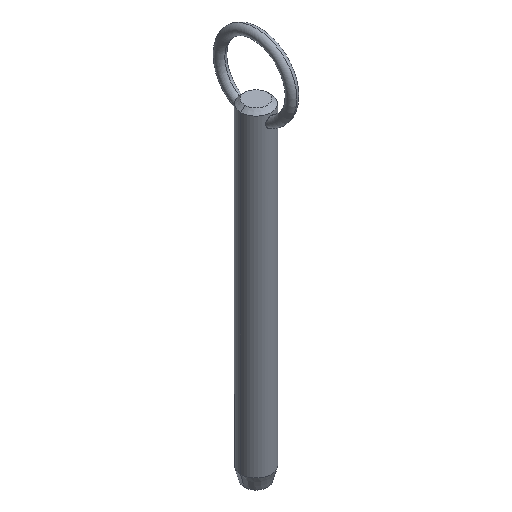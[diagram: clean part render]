
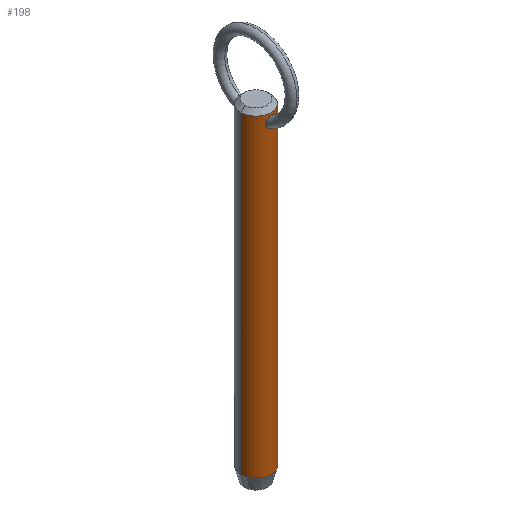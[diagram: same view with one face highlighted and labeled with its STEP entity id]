
A CAD part, isometric view. The second image highlights one B-rep face of the part: STEP entity #198.
In plain terms, the highlighted cylindrical face has radius 4.76 mm (diameter 9.52 mm), a partial arc.
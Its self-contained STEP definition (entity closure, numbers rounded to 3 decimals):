
#3 = AXIS2_PLACEMENT_3D ( 'NONE', #461, #98, #16 ) ;
#10 = CARTESIAN_POINT ( 'NONE',  ( 1.434, -4.539, 86.754 ) ) ;
#12 = CARTESIAN_POINT ( 'NONE',  ( 1.473, -4.526, 85.931 ) ) ;
#16 = DIRECTION ( 'NONE',  ( 1., 0., 0. ) ) ;
#22 = CARTESIAN_POINT ( 'NONE',  ( -0.208, -4.757, 88.034 ) ) ;
#26 = CARTESIAN_POINT ( 'NONE',  ( -0.504, -4.734, 87.938 ) ) ;
#31 = CARTESIAN_POINT ( 'NONE',  ( 0., -4.76, 88.048 ) ) ;
#36 = CYLINDRICAL_SURFACE ( 'NONE', #148, 4.76 ) ;
#41 = CARTESIAN_POINT ( 'NONE',  ( 0.77, -4.698, 87.775 ) ) ;
#50 = CARTESIAN_POINT ( 'NONE',  ( 1.478, -4.525, 86.552 ) ) ;
#55 = CARTESIAN_POINT ( 'NONE',  ( 1.344, -4.567, 85.539 ) ) ;
#62 = CARTESIAN_POINT ( 'NONE',  ( 0., 0., -8.7 ) ) ;
#64 = ORIENTED_EDGE ( 'NONE', *, *, #108, .T. ) ;
#73 = CARTESIAN_POINT ( 'NONE',  ( -0.777, -4.7, 87.785 ) ) ;
#75 = DIRECTION ( 'NONE',  ( -1., 0., 0. ) ) ;
#86 = VERTEX_POINT ( 'NONE', #195 ) ;
#88 = CARTESIAN_POINT ( 'NONE',  ( 0., -4.76, 88.048 ) ) ;
#95 = CARTESIAN_POINT ( 'NONE',  ( 1.499, -4.518, 86.137 ) ) ;
#97 = CARTESIAN_POINT ( 'NONE',  ( 0.797, -4.697, 84.929 ) ) ;
#98 = DIRECTION ( 'NONE',  ( 0., 0., -1. ) ) ;
#103 = DIRECTION ( 'NONE',  ( 0., 0., 1. ) ) ;
#105 = VECTOR ( 'NONE', #403, 1000. ) ;
#107 = CARTESIAN_POINT ( 'NONE',  ( -1.247, -4.596, 85.352 ) ) ;
#108 = EDGE_CURVE ( 'NONE', #222, #210, #140, .T. ) ;
#114 = CARTESIAN_POINT ( 'NONE',  ( 0., 0., 83.8 ) ) ;
#116 = FACE_BOUND ( 'NONE', #291, .T. ) ;
#119 = CARTESIAN_POINT ( 'NONE',  ( -4.76, 0., 83.8 ) ) ;
#121 = CARTESIAN_POINT ( 'NONE',  ( 0.687, -4.711, 87.835 ) ) ;
#123 = CARTESIAN_POINT ( 'NONE',  ( 4.76, 0., -8.7 ) ) ;
#128 = VERTEX_POINT ( 'NONE', #123 ) ;
#130 = DIRECTION ( 'NONE',  ( 0., 0., -1. ) ) ;
#132 = CARTESIAN_POINT ( 'NONE',  ( 0.97, -4.662, 85.05 ) ) ;
#140 = B_SPLINE_CURVE_WITH_KNOTS ( 'NONE', 3,
 ( #88, #488, #282, #319, #239, #121, #41, #410, #161, #450, #252, #327, #10, #50, #455, #416, #95, #12, #373, #295, #55, #332, #369, #132, #97, #206, #172, #419, #289, #193 ),
 .UNSPECIFIED., .F., .F.,
 ( 4, 2, 2, 2, 2, 2, 2, 2, 2, 2, 2, 2, 2, 2, 4 ),
 ( 0.004, 0.005, 0.005, 0.005, 0.006, 0.006, 0.007, 0.007, 0.007, 0.007, 0.008, 0.008, 0.009, 0.009, 0.009 ),
 .UNSPECIFIED. ) ;
#143 = CARTESIAN_POINT ( 'NONE',  ( -1.19, -4.611, 87.324 ) ) ;
#145 = CARTESIAN_POINT ( 'NONE',  ( 0., -4.76, 84.726 ) ) ;
#147 = CARTESIAN_POINT ( 'NONE',  ( 0., -4.76, 84.726 ) ) ;
#148 = AXIS2_PLACEMENT_3D ( 'NONE', #114, #188, #75 ) ;
#154 = CARTESIAN_POINT ( 'NONE',  ( -0.103, -4.76, 88.048 ) ) ;
#158 = EDGE_CURVE ( 'NONE', #210, #222, #339, .T. ) ;
#161 = CARTESIAN_POINT ( 'NONE',  ( 0.997, -4.655, 87.564 ) ) ;
#172 = CARTESIAN_POINT ( 'NONE',  ( 0.411, -4.743, 84.777 ) ) ;
#175 = FACE_OUTER_BOUND ( 'NONE', #312, .T. ) ;
#183 = CARTESIAN_POINT ( 'NONE',  ( -1.441, -4.537, 86.757 ) ) ;
#187 = ORIENTED_EDGE ( 'NONE', *, *, #368, .F. ) ;
#188 = DIRECTION ( 'NONE',  ( 0., 0., -1. ) ) ;
#193 = CARTESIAN_POINT ( 'NONE',  ( 0., -4.76, 84.726 ) ) ;
#195 = CARTESIAN_POINT ( 'NONE',  ( -4.76, 0., -8.7 ) ) ;
#198 = ADVANCED_FACE ( 'NONE', ( #175, #116 ), #36, .T. ) ;
#206 = CARTESIAN_POINT ( 'NONE',  ( 0.512, -4.733, 84.808 ) ) ;
#208 = VECTOR ( 'NONE', #130, 1000. ) ;
#210 = VERTEX_POINT ( 'NONE', #145 ) ;
#222 = VERTEX_POINT ( 'NONE', #264 ) ;
#226 = CARTESIAN_POINT ( 'NONE',  ( -0.703, -4.709, 84.889 ) ) ;
#229 = CARTESIAN_POINT ( 'NONE',  ( -1.353, -4.564, 85.535 ) ) ;
#233 = VERTEX_POINT ( 'NONE', #477 ) ;
#238 = ORIENTED_EDGE ( 'NONE', *, *, #442, .T. ) ;
#239 = CARTESIAN_POINT ( 'NONE',  ( 0.506, -4.734, 87.937 ) ) ;
#244 = ORIENTED_EDGE ( 'NONE', *, *, #158, .T. ) ;
#252 = CARTESIAN_POINT ( 'NONE',  ( 1.293, -4.582, 87.142 ) ) ;
#259 = DIRECTION ( 'NONE',  ( -1., 0., 0. ) ) ;
#264 = CARTESIAN_POINT ( 'NONE',  ( 0., -4.76, 88.048 ) ) ;
#266 = EDGE_CURVE ( 'NONE', #233, #86, #447, .T. ) ;
#271 = VERTEX_POINT ( 'NONE', #355 ) ;
#273 = CARTESIAN_POINT ( 'NONE',  ( -0.793, -4.694, 84.939 ) ) ;
#282 = CARTESIAN_POINT ( 'NONE',  ( 0.209, -4.756, 88.034 ) ) ;
#288 = CARTESIAN_POINT ( 'NONE',  ( 4.76, 0., 83.8 ) ) ;
#289 = CARTESIAN_POINT ( 'NONE',  ( 0.105, -4.76, 84.726 ) ) ;
#291 = EDGE_LOOP ( 'NONE', ( #64, #244 ) ) ;
#295 = CARTESIAN_POINT ( 'NONE',  ( 1.385, -4.554, 85.632 ) ) ;
#305 = CARTESIAN_POINT ( 'NONE',  ( -1.039, -4.646, 85.126 ) ) ;
#307 = CARTESIAN_POINT ( 'NONE',  ( -0.961, -4.663, 85.057 ) ) ;
#309 = CARTESIAN_POINT ( 'NONE',  ( -0.21, -4.76, 84.726 ) ) ;
#311 = CIRCLE ( 'NONE', #503, 4.76 ) ;
#312 = EDGE_LOOP ( 'NONE', ( #187, #238, #367, #376 ) ) ;
#319 = CARTESIAN_POINT ( 'NONE',  ( 0.409, -4.743, 87.978 ) ) ;
#327 = CARTESIAN_POINT ( 'NONE',  ( 1.404, -4.548, 86.853 ) ) ;
#332 = CARTESIAN_POINT ( 'NONE',  ( 1.24, -4.596, 85.36 ) ) ;
#339 = B_SPLINE_CURVE_WITH_KNOTS ( 'NONE', 3,
 ( #147, #309, #432, #226, #273, #307, #305, #107, #229, #396, #347, #475, #183, #515, #143, #440, #73, #26, #433, #22, #154, #31 ),
 .UNSPECIFIED., .F., .F.,
 ( 4, 2, 2, 2, 2, 2, 2, 2, 2, 2, 4 ),
 ( 0.009, 0.01, 0.01, 0.011, 0.011, 0.012, 0.012, 0.013, 0.014, 0.014, 0.014 ),
 .UNSPECIFIED. ) ;
#347 = CARTESIAN_POINT ( 'NONE',  ( -1.508, -4.515, 86.137 ) ) ;
#355 = CARTESIAN_POINT ( 'NONE',  ( 4.76, 0., 88.85 ) ) ;
#367 = ORIENTED_EDGE ( 'NONE', *, *, #266, .T. ) ;
#368 = EDGE_CURVE ( 'NONE', #271, #128, #493, .T. ) ;
#369 = CARTESIAN_POINT ( 'NONE',  ( 1.178, -4.613, 85.276 ) ) ;
#373 = CARTESIAN_POINT ( 'NONE',  ( 1.45, -4.534, 85.828 ) ) ;
#376 = ORIENTED_EDGE ( 'NONE', *, *, #467, .T. ) ;
#396 = CARTESIAN_POINT ( 'NONE',  ( -1.483, -4.524, 85.926 ) ) ;
#403 = DIRECTION ( 'NONE',  ( 0., 0., -1. ) ) ;
#410 = CARTESIAN_POINT ( 'NONE',  ( 0.925, -4.67, 87.639 ) ) ;
#416 = CARTESIAN_POINT ( 'NONE',  ( 1.503, -4.517, 86.24 ) ) ;
#419 = CARTESIAN_POINT ( 'NONE',  ( 0.208, -4.757, 84.736 ) ) ;
#425 = CIRCLE ( 'NONE', #3, 4.76 ) ;
#432 = CARTESIAN_POINT ( 'NONE',  ( -0.416, -4.746, 84.767 ) ) ;
#433 = CARTESIAN_POINT ( 'NONE',  ( -0.409, -4.743, 87.978 ) ) ;
#440 = CARTESIAN_POINT ( 'NONE',  ( -0.932, -4.67, 87.645 ) ) ;
#442 = EDGE_CURVE ( 'NONE', #271, #233, #425, .T. ) ;
#447 = LINE ( 'NONE', #119, #105 ) ;
#450 = CARTESIAN_POINT ( 'NONE',  ( 1.19, -4.611, 87.324 ) ) ;
#455 = CARTESIAN_POINT ( 'NONE',  ( 1.492, -4.52, 86.448 ) ) ;
#461 = CARTESIAN_POINT ( 'NONE',  ( 0., 0., 88.85 ) ) ;
#467 = EDGE_CURVE ( 'NONE', #86, #128, #311, .T. ) ;
#475 = CARTESIAN_POINT ( 'NONE',  ( -1.487, -4.522, 86.553 ) ) ;
#477 = CARTESIAN_POINT ( 'NONE',  ( -4.76, 0., 88.85 ) ) ;
#488 = CARTESIAN_POINT ( 'NONE',  ( 0.104, -4.76, 88.048 ) ) ;
#493 = LINE ( 'NONE', #288, #208 ) ;
#503 = AXIS2_PLACEMENT_3D ( 'NONE', #62, #103, #259 ) ;
#515 = CARTESIAN_POINT ( 'NONE',  ( -1.292, -4.582, 87.145 ) ) ;
